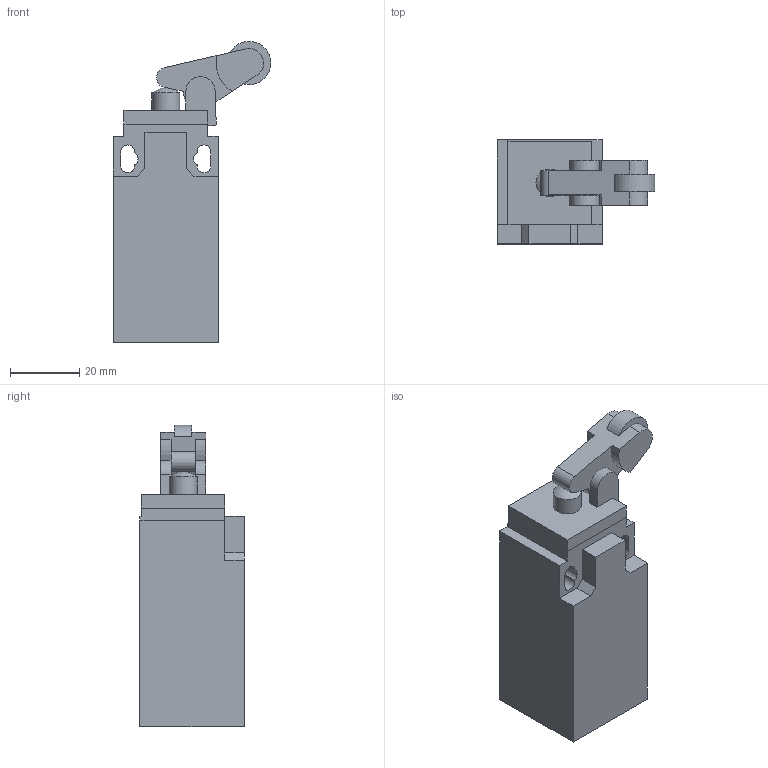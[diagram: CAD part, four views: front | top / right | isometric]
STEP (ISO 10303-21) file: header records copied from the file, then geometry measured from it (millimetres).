
FILE_DESCRIPTION((''),'2;1');
FILE_NAME('C:\Workarea\Disegni\Comepi\Catalogo\Stp\Finecorsa\AP1_T32.iam.step','2011-07-22T16:14:56',(''),(''),'Autodesk Inventor 2012','Autodesk Inventor 2012','');
FILE_SCHEMA(('AUTOMOTIVE_DESIGN { 1 0 10303 214 1 1 1 1 }'));
Length unit declared in the file: millimetre
Products named in the file (6): AP1_T32; AP1; T32; T32_1; T32_2; T32_3
Assembly tree (5 placements, depth 3):
  AP1_T32
    AP1
    T32
      T32_1
      T32_2
      T32_3
Bounding box: 45.41 x 30 x 86.86 mm (x, y, z)
Volume: 55051.4 mm3; surface area: 14927.7 mm2
Topology: 4 solids, 4 shells, 73 faces, 190 edges, 126 vertices
Faces by surface type: plane 53, cylinder 19, sphere 1
Full cylindrical faces by diameter (mm): 8 x2, 20.4 x1
Entity records: 2447 total; most frequent: CARTESIAN_POINT 397, DIRECTION 393, ORIENTED_EDGE 374, EDGE_CURVE 187, VECTOR 149, LINE 149, VERTEX_POINT 126, AXIS2_PLACEMENT_3D 122
